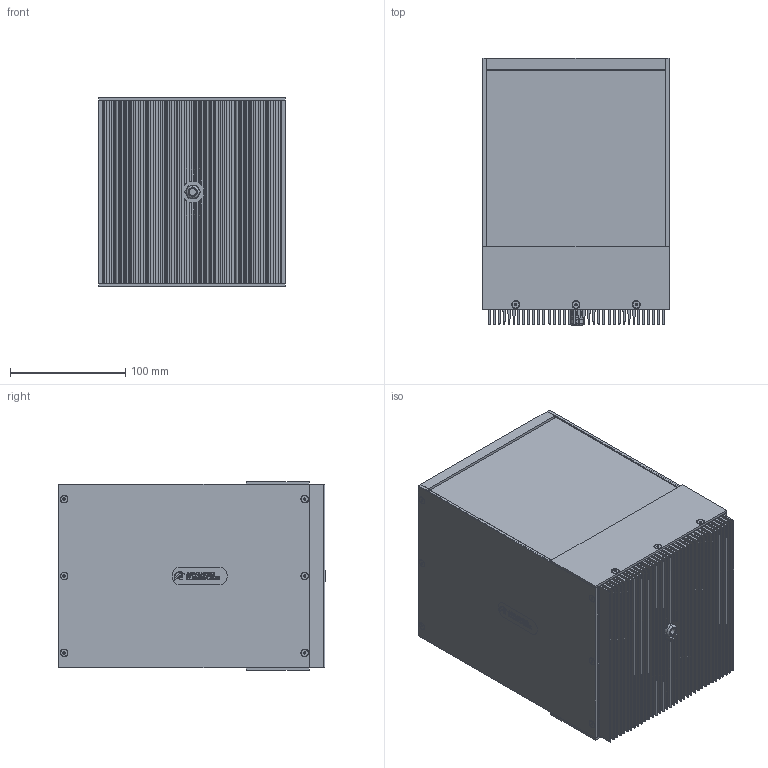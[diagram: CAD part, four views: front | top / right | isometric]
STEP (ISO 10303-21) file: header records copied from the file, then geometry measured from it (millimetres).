
FILE_DESCRIPTION (( 'STEP AP214' ), '1' );
FILE_NAME ('DL225-150.stp', '2021-07-16T19:12:43', ( '' ), ( '' ), 'SwSTEP 2.0', 'SolidWorks 2018', '' );
FILE_SCHEMA (( 'AUTOMOTIVE_DESIGN' ));
Length unit declared in the file: inch
Products named in the file (24): 090154-06; 091053; 095434; 096429; 090336; 090338; 096426; 096425_Default<As Machined>; 090335; 096424_Default<As Machined>; 090154-08; 096423_Default<As Machined>; 5413-54; DL225-150; 096427; 095438_DL225-150; PHTHF-256x.1875; 095586-XXYY_095586-0606; FH-440X.25; 096428; 090332; CD10MW-BR_Model_Dome Fittings_Thread Type and Size(Dome)_M10 x 1.5_Hazardous Location-Explosive Proof(ATEX and EExe Versions)_No_; 090334
Assembly tree (53 placements, depth 3):
  DL225-150
    096423_Default<As Machined>
    096424_Default<As Machined>  x2
    096425_Default<As Machined>
    096426  x2
    090338  x4
    090334
    090336
    090335
    090332
    FH-440X.25  x18
    095586-XXYY_095586-0606
      095438_DL225-150
      095434
    091053  x2
      091053
    090154-06  x4
    090154-08  x2
    CD10MW-BR_Model_Dome Fittings_Thread Type and Size(Dome)_M10 x 1.5_Hazardous Location-Explosive Proof(ATEX and EExe Versions)_No_
    5413-54
    PHTHF-256x.1875
    096427  x2
    096428  x2
    096429  x2
Bounding box: 161.39 x 231.32 x 163.45 mm (x, y, z)
Volume: 1209604.7 mm3; surface area: 981799.5 mm2
Topology: 52 solids, 52 shells, 2523 faces, 6215 edges, 3890 vertices
Faces by surface type: plane 1254, cylinder 666, cone 447, bspline 132, torus 24
Entity records: 45865 total; most frequent: CARTESIAN_POINT 13319, ORIENTED_EDGE 5922, DIRECTION 5749, EDGE_CURVE 2961, AXIS2_PLACEMENT_3D 1943, VERTEX_POINT 1906, LINE 1863, VECTOR 1863
